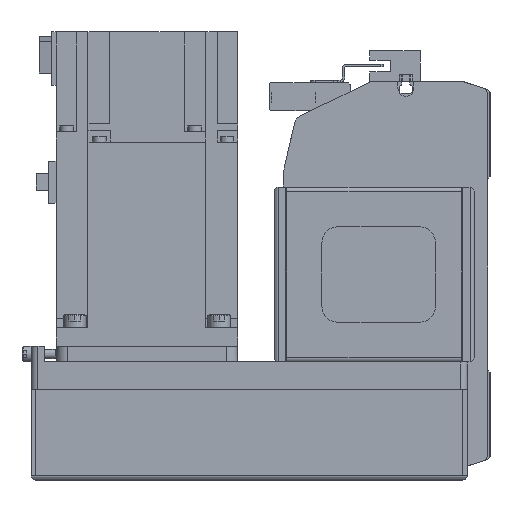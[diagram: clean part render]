
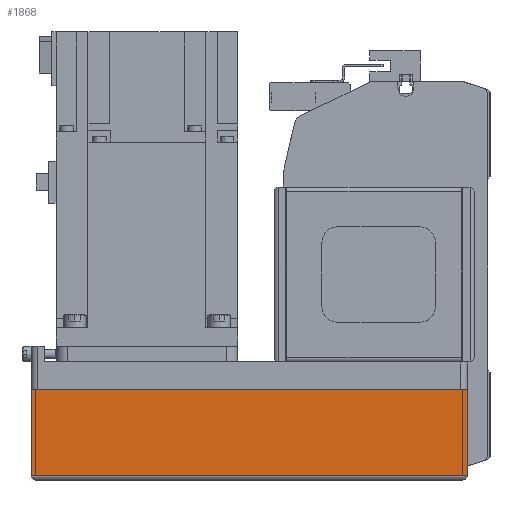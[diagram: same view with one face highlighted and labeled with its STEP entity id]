
A CAD part, left-side view. The second image highlights one B-rep face of the part: STEP entity #1868.
In plain terms, the highlighted planar face has unit normal (-1, 0, 0) as drawn and (0, -1, 0) by its records, which use the part's own axes.
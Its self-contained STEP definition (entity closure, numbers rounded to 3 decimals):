
#1868 = ADVANCED_FACE( '', ( #4406 ), #4407, .T. );
#4406 = FACE_OUTER_BOUND( '', #7776, .T. );
#4407 = PLANE( '', #7777 );
#7776 = EDGE_LOOP( '', ( #13068, #13069, #13070, #13071 ) );
#7777 = AXIS2_PLACEMENT_3D( '', #13072, #13073, #13074 );
#13068 = ORIENTED_EDGE( '', *, *, #20872, .F. );
#13069 = ORIENTED_EDGE( '', *, *, #20873, .F. );
#13070 = ORIENTED_EDGE( '', *, *, #20874, .T. );
#13071 = ORIENTED_EDGE( '', *, *, #20875, .T. );
#13072 = CARTESIAN_POINT( '', ( -192., -40., -12.1 ) );
#13073 = DIRECTION( '', ( 0., -1., 0. ) );
#13074 = DIRECTION( '', ( 0., 0., -1. ) );
#20872 = EDGE_CURVE( '', #25592, #23846, #25593, .T. );
#20873 = EDGE_CURVE( '', #25594, #25592, #25595, .T. );
#20874 = EDGE_CURVE( '', #25594, #25019, #25596, .T. );
#20875 = EDGE_CURVE( '', #25019, #23846, #25597, .T. );
#23846 = VERTEX_POINT( '', #29648 );
#25019 = VERTEX_POINT( '', #31243 );
#25592 = VERTEX_POINT( '', #32040 );
#25593 = LINE( '', #32041, #32042 );
#25594 = VERTEX_POINT( '', #32043 );
#25595 = LINE( '', #32044, #32045 );
#25596 = LINE( '', #32046, #32047 );
#25597 = LINE( '', #32048, #32049 );
#29648 = CARTESIAN_POINT( '', ( 0., -40., -50. ) );
#31243 = CARTESIAN_POINT( '', ( -192., -40., -50. ) );
#32040 = CARTESIAN_POINT( '', ( 0., -40., -12.1 ) );
#32041 = CARTESIAN_POINT( '', ( 0., -40., -12.1 ) );
#32042 = VECTOR( '', #38031, 1000. );
#32043 = CARTESIAN_POINT( '', ( -192., -40., -12.1 ) );
#32044 = CARTESIAN_POINT( '', ( -192., -40., -12.1 ) );
#32045 = VECTOR( '', #38032, 1000. );
#32046 = CARTESIAN_POINT( '', ( -192., -40., -12.1 ) );
#32047 = VECTOR( '', #38033, 1000. );
#32048 = CARTESIAN_POINT( '', ( -192., -40., -50. ) );
#32049 = VECTOR( '', #38034, 1000. );
#38031 = DIRECTION( '', ( 0., 0., -1. ) );
#38032 = DIRECTION( '', ( 1., 0., 0. ) );
#38033 = DIRECTION( '', ( 0., 0., -1. ) );
#38034 = DIRECTION( '', ( 1., 0., 0. ) );
